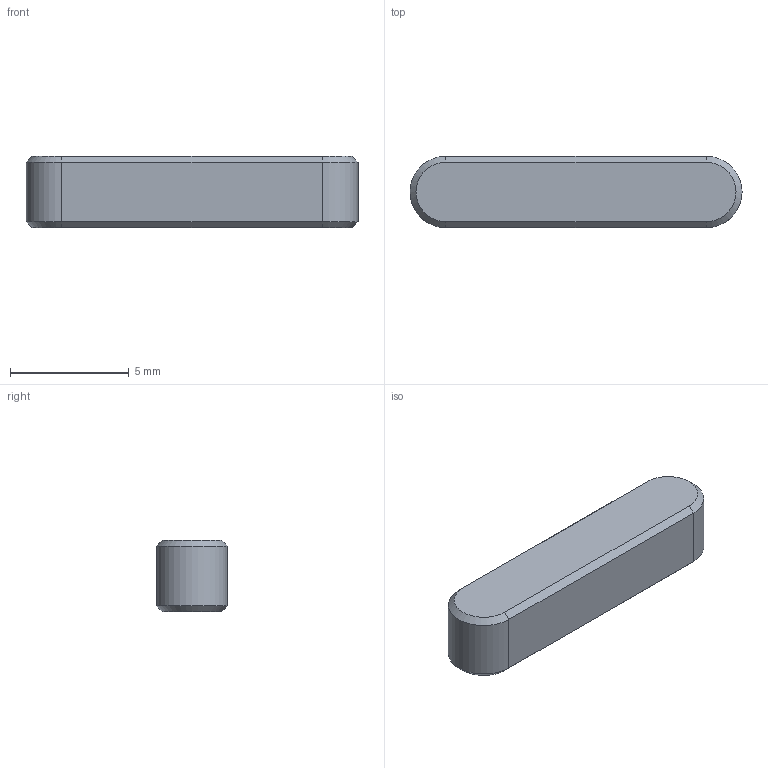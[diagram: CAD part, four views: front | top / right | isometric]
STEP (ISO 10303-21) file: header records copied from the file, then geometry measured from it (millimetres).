
FILE_DESCRIPTION(/* description */ ('키 및 해당 키홈'),/* implementation_level */ '2;1');
FILE_NAME(/* name */ '',/* time_stamp */ '2026-05-29T16:19:15+09:00',/* author */ ('jhkim'),/* organization */ (''),/* preprocessor_version */ 'ST-DEVELOPER v20.1',/* originating_system */ 'Autodesk Inventor 2027',/* authorisation */ '');
FILE_SCHEMA (('AUTOMOTIVE_DESIGN { 1 0 10303 214 3 1 1 }'));
Length unit declared in the file: millimetre
Products named in the file (1): 평행 키 3x3x14
Bounding box: 14 x 3 x 3 mm (x, y, z)
Volume: 118.3 mm3; surface area: 165 mm2
Topology: 1 solids, 1 shells, 14 faces, 28 edges, 16 vertices
Faces by surface type: plane 8, cone 4, cylinder 2
Entity records: 399 total; most frequent: DIRECTION 66, CARTESIAN_POINT 59, ORIENTED_EDGE 56, EDGE_CURVE 28, AXIS2_PLACEMENT_3D 23, LINE 20, VECTOR 20, VERTEX_POINT 16
